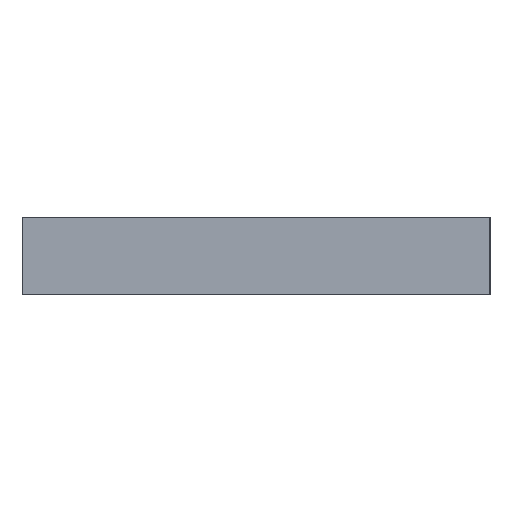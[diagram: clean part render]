
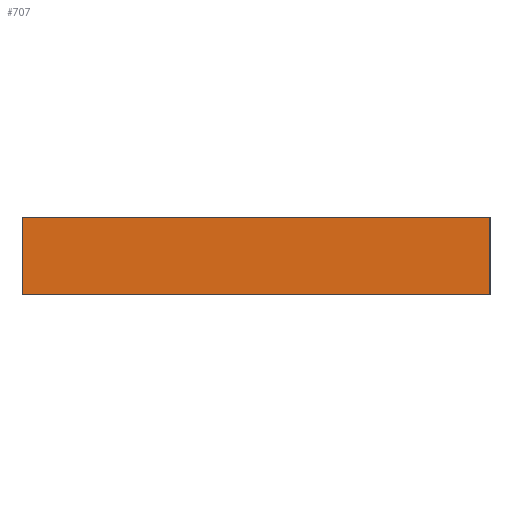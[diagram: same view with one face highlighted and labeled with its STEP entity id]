
A CAD part, left-side view. The second image highlights one B-rep face of the part: STEP entity #707.
In plain terms, the highlighted planar face has unit normal (-1, 0, 0).
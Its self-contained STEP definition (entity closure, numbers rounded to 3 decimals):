
#707=ADVANCED_FACE('0:3485',(#1635),#1636,.T.);
#1635=FACE_OUTER_BOUND('',#2796,.T.);
#1636=PLANE('',#2797);
#2796=EDGE_LOOP('',(#4787,#4788,#4789,#4790));
#2797=AXIS2_PLACEMENT_3D('',#4791,#4792,#4793);
#4787=ORIENTED_EDGE('',*,*,#7374,.T.);
#4788=ORIENTED_EDGE('',*,*,#7376,.T.);
#4789=ORIENTED_EDGE('',*,*,#7377,.F.);
#4790=ORIENTED_EDGE('',*,*,#7158,.F.);
#4791=CARTESIAN_POINT('',(-63.5,0.0,0.0));
#4792=DIRECTION('',(-1.0,-0.0,0.0));
#4793=DIRECTION('',(0.0,0.0,1.0));
#7158=EDGE_CURVE('0:3707',#8576,#8578,#8579,.T.);
#7374=EDGE_CURVE('0:4193',#8576,#8900,#8902,.T.);
#7376=EDGE_CURVE('0:4196',#8900,#8904,#8905,.F.);
#7377=EDGE_CURVE('0:4199',#8578,#8904,#8906,.T.);
#8576=VERTEX_POINT('',#10538);
#8578=VERTEX_POINT('',#10541);
#8579=LINE('',#10542,#10543);
#8900=VERTEX_POINT('',#11024);
#8902=LINE('',#11027,#11028);
#8904=VERTEX_POINT('',#11030);
#8905=LINE('',#11031,#11032);
#8906=LINE('',#11033,#11034);
#10538=CARTESIAN_POINT('',(-63.5,-63.5,0.0));
#10541=CARTESIAN_POINT('',(-63.5,63.5,0.0));
#10542=CARTESIAN_POINT('',(-63.5,-63.5,0.0));
#10543=VECTOR('',#13390,0.001);
#11024=CARTESIAN_POINT('',(-63.5,-63.5,21.0));
#11027=CARTESIAN_POINT('',(-63.5,-63.5,0.0));
#11028=VECTOR('',#13552,0.001);
#11030=CARTESIAN_POINT('',(-63.5,63.5,21.0));
#11031=CARTESIAN_POINT('',(-63.5,0.0,21.0));
#11032=VECTOR('',#13553,0.001);
#11033=CARTESIAN_POINT('',(-63.5,63.5,0.0));
#11034=VECTOR('',#13554,0.001);
#13390=DIRECTION('',(0.0,1.0,0.0));
#13552=DIRECTION('',(0.0,0.0,1.0));
#13553=DIRECTION('',(0.0,-1.0,0.0));
#13554=DIRECTION('',(0.0,0.0,1.0));
